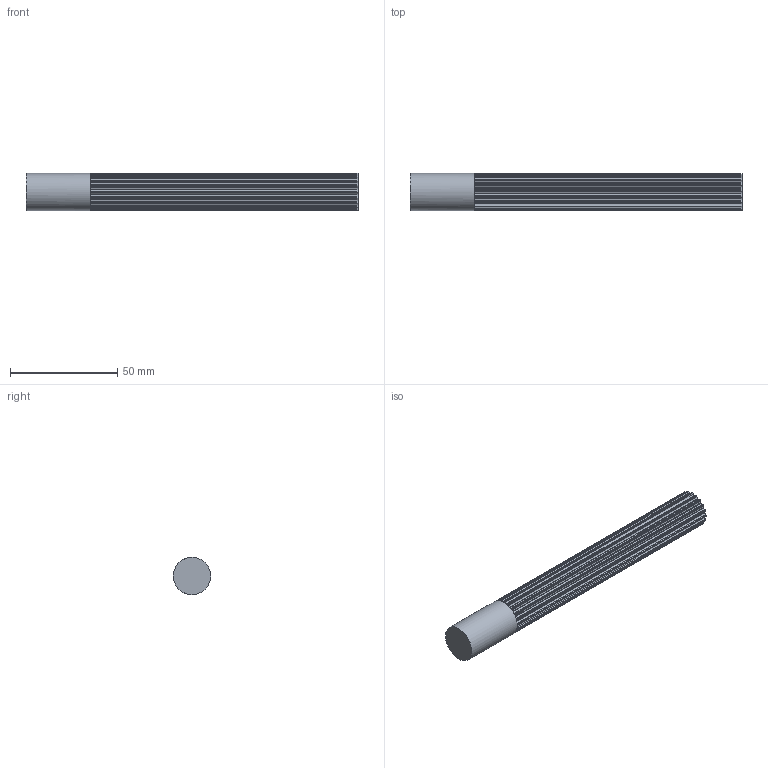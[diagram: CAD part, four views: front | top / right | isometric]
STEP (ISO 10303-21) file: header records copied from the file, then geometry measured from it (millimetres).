
FILE_DESCRIPTION( ( 'STEP AP214' ), '1' );
FILE_NAME( 'C:/Users/StangenbergN/Desktop/Steps Zahnriemenräder/K166_HTD-Zahnwellen/17091900.stp', '2019-06-06T09:33:47', ( '' ), ( '' ), ' ', 'PARTsolutions', ' ' );
FILE_SCHEMA( ( 'AUTOMOTIVE_DESIGN { 1 0 10303 214 1 1 1 1 }' ) );
Length unit declared in the file: millimetre
Products named in the file (1): _17091900
Bounding box: 155 x 17.38 x 17.38 mm (x, y, z)
Volume: 31811.4 mm3; surface area: 11386.1 mm2
Topology: 1 solids, 1 shells, 155 faces, 459 edges, 306 vertices
Faces by surface type: plane 78, cylinder 77
Full cylindrical faces by diameter (mm): 17.38 x1
Entity records: 6506 total; most frequent: DIRECTION 960, CARTESIAN_POINT 918, ORIENTED_EDGE 914, EDGE_CURVE 457, AXIS2_PLACEMENT_3D 347, VERTEX_POINT 305, LINE 266, VECTOR 266
